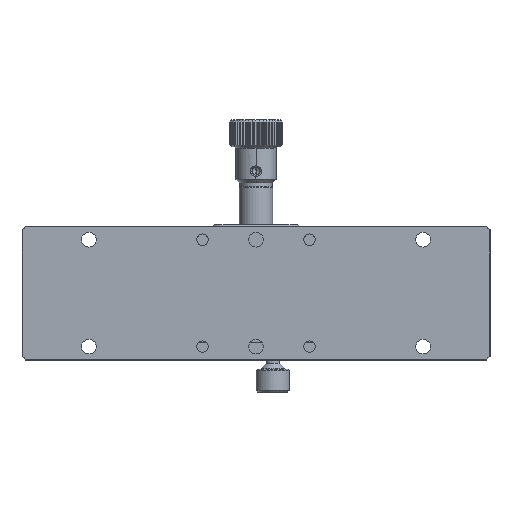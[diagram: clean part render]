
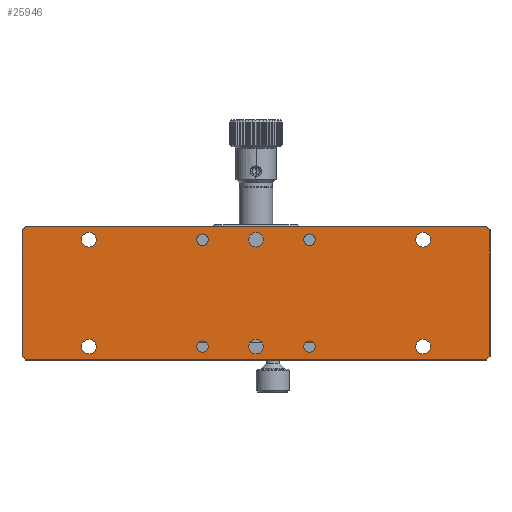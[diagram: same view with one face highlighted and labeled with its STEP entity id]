
A CAD part, front view. The second image highlights one B-rep face of the part: STEP entity #25946.
In plain terms, the highlighted planar face has unit normal (0, -1, 0).
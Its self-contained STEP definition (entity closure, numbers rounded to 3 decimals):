
#622=DIRECTION('',(0.707,0.,-0.707));
#623=VECTOR('',#622,1.249);
#624=CARTESIAN_POINT('',(-19.8,-14.5,-68.917));
#625=LINE('',#624,#623);
#626=DIRECTION('',(0.,0.,-1.));
#627=VECTOR('',#626,137.834);
#628=CARTESIAN_POINT('',(-19.8,-14.5,68.917));
#629=LINE('',#628,#627);
#630=DIRECTION('',(-0.707,0.,-0.707));
#631=VECTOR('',#630,1.249);
#632=CARTESIAN_POINT('',(-18.917,-14.5,69.8));
#633=LINE('',#632,#631);
#634=DIRECTION('',(-1.,0.,0.));
#635=VECTOR('',#634,37.834);
#636=CARTESIAN_POINT('',(18.917,-14.5,69.8));
#637=LINE('',#636,#635);
#638=DIRECTION('',(-0.707,0.,0.707));
#639=VECTOR('',#638,1.249);
#640=CARTESIAN_POINT('',(19.8,-14.5,68.917));
#641=LINE('',#640,#639);
#642=DIRECTION('',(0.,0.,1.));
#643=VECTOR('',#642,137.834);
#644=CARTESIAN_POINT('',(19.8,-14.5,-68.917));
#645=LINE('',#644,#643);
#646=DIRECTION('',(0.707,0.,0.707));
#647=VECTOR('',#646,1.249);
#648=CARTESIAN_POINT('',(18.917,-14.5,-69.8));
#649=LINE('',#648,#647);
#650=DIRECTION('',(1.,0.,0.));
#651=VECTOR('',#650,37.834);
#652=CARTESIAN_POINT('',(-18.917,-14.5,-69.8));
#653=LINE('',#652,#651);
#654=CARTESIAN_POINT('',(-16.,-14.5,-50.));
#655=DIRECTION('',(0.,1.,0.));
#656=DIRECTION('',(1.,0.,0.));
#657=AXIS2_PLACEMENT_3D('',#654,#655,#656);
#659=CARTESIAN_POINT('',(-16.,-14.5,-50.));
#660=DIRECTION('',(0.,1.,0.));
#661=DIRECTION('',(-1.,0.,0.));
#662=AXIS2_PLACEMENT_3D('',#659,#660,#661);
#664=CARTESIAN_POINT('',(16.,-14.5,-50.));
#665=DIRECTION('',(0.,1.,0.));
#666=DIRECTION('',(1.,0.,0.));
#667=AXIS2_PLACEMENT_3D('',#664,#665,#666);
#669=CARTESIAN_POINT('',(16.,-14.5,-50.));
#670=DIRECTION('',(0.,1.,0.));
#671=DIRECTION('',(-1.,0.,0.));
#672=AXIS2_PLACEMENT_3D('',#669,#670,#671);
#674=CARTESIAN_POINT('',(-16.,-14.5,50.));
#675=DIRECTION('',(0.,1.,0.));
#676=DIRECTION('',(1.,0.,0.));
#677=AXIS2_PLACEMENT_3D('',#674,#675,#676);
#679=CARTESIAN_POINT('',(-16.,-14.5,50.));
#680=DIRECTION('',(0.,1.,0.));
#681=DIRECTION('',(-1.,0.,0.));
#682=AXIS2_PLACEMENT_3D('',#679,#680,#681);
#684=CARTESIAN_POINT('',(16.,-14.5,50.));
#685=DIRECTION('',(0.,1.,0.));
#686=DIRECTION('',(1.,0.,0.));
#687=AXIS2_PLACEMENT_3D('',#684,#685,#686);
#689=CARTESIAN_POINT('',(16.,-14.5,50.));
#690=DIRECTION('',(0.,1.,0.));
#691=DIRECTION('',(-1.,0.,0.));
#692=AXIS2_PLACEMENT_3D('',#689,#690,#691);
#694=CARTESIAN_POINT('',(-16.,-14.5,0.));
#695=DIRECTION('',(0.,1.,0.));
#696=DIRECTION('',(1.,0.,0.));
#697=AXIS2_PLACEMENT_3D('',#694,#695,#696);
#699=CARTESIAN_POINT('',(-16.,-14.5,0.));
#700=DIRECTION('',(0.,1.,0.));
#701=DIRECTION('',(-1.,0.,0.));
#702=AXIS2_PLACEMENT_3D('',#699,#700,#701);
#704=CARTESIAN_POINT('',(16.,-14.5,0.));
#705=DIRECTION('',(0.,1.,0.));
#706=DIRECTION('',(1.,0.,0.));
#707=AXIS2_PLACEMENT_3D('',#704,#705,#706);
#709=CARTESIAN_POINT('',(16.,-14.5,0.));
#710=DIRECTION('',(0.,1.,0.));
#711=DIRECTION('',(-1.,0.,0.));
#712=AXIS2_PLACEMENT_3D('',#709,#710,#711);
#714=CARTESIAN_POINT('',(-16.,-14.5,-16.));
#715=DIRECTION('',(0.,1.,0.));
#716=DIRECTION('',(1.,0.,0.));
#717=AXIS2_PLACEMENT_3D('',#714,#715,#716);
#719=CARTESIAN_POINT('',(-16.,-14.5,-16.));
#720=DIRECTION('',(0.,1.,0.));
#721=DIRECTION('',(-1.,0.,0.));
#722=AXIS2_PLACEMENT_3D('',#719,#720,#721);
#724=CARTESIAN_POINT('',(-16.,-14.5,16.));
#725=DIRECTION('',(0.,1.,0.));
#726=DIRECTION('',(1.,0.,0.));
#727=AXIS2_PLACEMENT_3D('',#724,#725,#726);
#729=CARTESIAN_POINT('',(-16.,-14.5,16.));
#730=DIRECTION('',(0.,1.,0.));
#731=DIRECTION('',(-1.,0.,0.));
#732=AXIS2_PLACEMENT_3D('',#729,#730,#731);
#734=CARTESIAN_POINT('',(16.,-14.5,-16.));
#735=DIRECTION('',(0.,1.,0.));
#736=DIRECTION('',(1.,0.,0.));
#737=AXIS2_PLACEMENT_3D('',#734,#735,#736);
#739=CARTESIAN_POINT('',(16.,-14.5,-16.));
#740=DIRECTION('',(0.,1.,0.));
#741=DIRECTION('',(-1.,0.,0.));
#742=AXIS2_PLACEMENT_3D('',#739,#740,#741);
#744=CARTESIAN_POINT('',(16.,-14.5,16.));
#745=DIRECTION('',(0.,1.,0.));
#746=DIRECTION('',(1.,0.,0.));
#747=AXIS2_PLACEMENT_3D('',#744,#745,#746);
#749=CARTESIAN_POINT('',(16.,-14.5,16.));
#750=DIRECTION('',(0.,1.,0.));
#751=DIRECTION('',(-1.,0.,0.));
#752=AXIS2_PLACEMENT_3D('',#749,#750,#751);
#18767=CARTESIAN_POINT('',(-19.8,-14.5,-68.917));
#18768=CARTESIAN_POINT('',(-18.917,-14.5,-69.8));
#18769=VERTEX_POINT('',#18767);
#18770=VERTEX_POINT('',#18768);
#18777=CARTESIAN_POINT('',(18.917,-14.5,-69.8));
#18778=VERTEX_POINT('',#18777);
#18779=CARTESIAN_POINT('',(19.8,-14.5,-68.917));
#18780=VERTEX_POINT('',#18779);
#18785=CARTESIAN_POINT('',(19.8,-14.5,68.917));
#18786=VERTEX_POINT('',#18785);
#18787=CARTESIAN_POINT('',(18.917,-14.5,69.8));
#18788=VERTEX_POINT('',#18787);
#18793=CARTESIAN_POINT('',(-18.917,-14.5,69.8));
#18794=VERTEX_POINT('',#18793);
#18797=CARTESIAN_POINT('',(-19.8,-14.5,68.917));
#18798=VERTEX_POINT('',#18797);
#20187=CARTESIAN_POINT('',(-13.8,-14.5,-50.));
#20188=CARTESIAN_POINT('',(-18.2,-14.5,-50.));
#20189=VERTEX_POINT('',#20187);
#20190=VERTEX_POINT('',#20188);
#20191=CARTESIAN_POINT('',(18.2,-14.5,-50.));
#20192=CARTESIAN_POINT('',(13.8,-14.5,-50.));
#20193=VERTEX_POINT('',#20191);
#20194=VERTEX_POINT('',#20192);
#20195=CARTESIAN_POINT('',(-13.8,-14.5,50.));
#20196=CARTESIAN_POINT('',(-18.2,-14.5,50.));
#20197=VERTEX_POINT('',#20195);
#20198=VERTEX_POINT('',#20196);
#20199=CARTESIAN_POINT('',(18.2,-14.5,50.));
#20200=CARTESIAN_POINT('',(13.8,-14.5,50.));
#20201=VERTEX_POINT('',#20199);
#20202=VERTEX_POINT('',#20200);
#24879=CARTESIAN_POINT('',(-14.3,-14.5,-16.));
#24880=CARTESIAN_POINT('',(-17.7,-14.5,-16.));
#24881=VERTEX_POINT('',#24879);
#24882=VERTEX_POINT('',#24880);
#24883=CARTESIAN_POINT('',(-14.3,-14.5,16.));
#24884=CARTESIAN_POINT('',(-17.7,-14.5,16.));
#24885=VERTEX_POINT('',#24883);
#24886=VERTEX_POINT('',#24884);
#24887=CARTESIAN_POINT('',(17.7,-14.5,-16.));
#24888=CARTESIAN_POINT('',(14.3,-14.5,-16.));
#24889=VERTEX_POINT('',#24887);
#24890=VERTEX_POINT('',#24888);
#24891=CARTESIAN_POINT('',(17.7,-14.5,16.));
#24892=CARTESIAN_POINT('',(14.3,-14.5,16.));
#24893=VERTEX_POINT('',#24891);
#24894=VERTEX_POINT('',#24892);
#24943=CARTESIAN_POINT('',(-13.8,-14.5,0.));
#24944=CARTESIAN_POINT('',(-18.2,-14.5,0.));
#24945=VERTEX_POINT('',#24943);
#24946=VERTEX_POINT('',#24944);
#24947=CARTESIAN_POINT('',(18.2,-14.5,0.));
#24948=CARTESIAN_POINT('',(13.8,-14.5,0.));
#24949=VERTEX_POINT('',#24947);
#24950=VERTEX_POINT('',#24948);
#25864=CARTESIAN_POINT('',(0.,-14.5,0.));
#25865=DIRECTION('',(0.,1.,0.));
#25866=DIRECTION('',(1.,0.,0.));
#25867=AXIS2_PLACEMENT_3D('',#25864,#25865,#25866);
#25868=PLANE('',#25867);
#25870=ORIENTED_EDGE('',*,*,#25869,.F.);
#25872=ORIENTED_EDGE('',*,*,#25871,.F.);
#25874=ORIENTED_EDGE('',*,*,#25873,.F.);
#25876=ORIENTED_EDGE('',*,*,#25875,.F.);
#25878=ORIENTED_EDGE('',*,*,#25877,.F.);
#25880=ORIENTED_EDGE('',*,*,#25879,.F.);
#25881=ORIENTED_EDGE('',*,*,#25854,.F.);
#25883=ORIENTED_EDGE('',*,*,#25882,.F.);
#25884=EDGE_LOOP('',(#25870,#25872,#25874,#25876,#25878,#25880,#25881,#25883));
#25885=FACE_OUTER_BOUND('',#25884,.F.);
#25887=ORIENTED_EDGE('',*,*,#25886,.F.);
#25889=ORIENTED_EDGE('',*,*,#25888,.F.);
#25890=EDGE_LOOP('',(#25887,#25889));
#25891=FACE_BOUND('',#25890,.F.);
#25893=ORIENTED_EDGE('',*,*,#25892,.F.);
#25895=ORIENTED_EDGE('',*,*,#25894,.F.);
#25896=EDGE_LOOP('',(#25893,#25895));
#25897=FACE_BOUND('',#25896,.F.);
#25899=ORIENTED_EDGE('',*,*,#25898,.F.);
#25901=ORIENTED_EDGE('',*,*,#25900,.F.);
#25902=EDGE_LOOP('',(#25899,#25901));
#25903=FACE_BOUND('',#25902,.F.);
#25905=ORIENTED_EDGE('',*,*,#25904,.F.);
#25907=ORIENTED_EDGE('',*,*,#25906,.F.);
#25908=EDGE_LOOP('',(#25905,#25907));
#25909=FACE_BOUND('',#25908,.F.);
#25911=ORIENTED_EDGE('',*,*,#25910,.F.);
#25913=ORIENTED_EDGE('',*,*,#25912,.F.);
#25914=EDGE_LOOP('',(#25911,#25913));
#25915=FACE_BOUND('',#25914,.F.);
#25917=ORIENTED_EDGE('',*,*,#25916,.F.);
#25919=ORIENTED_EDGE('',*,*,#25918,.F.);
#25920=EDGE_LOOP('',(#25917,#25919));
#25921=FACE_BOUND('',#25920,.F.);
#25923=ORIENTED_EDGE('',*,*,#25922,.F.);
#25925=ORIENTED_EDGE('',*,*,#25924,.F.);
#25926=EDGE_LOOP('',(#25923,#25925));
#25927=FACE_BOUND('',#25926,.F.);
#25929=ORIENTED_EDGE('',*,*,#25928,.F.);
#25931=ORIENTED_EDGE('',*,*,#25930,.F.);
#25932=EDGE_LOOP('',(#25929,#25931));
#25933=FACE_BOUND('',#25932,.F.);
#25935=ORIENTED_EDGE('',*,*,#25934,.F.);
#25937=ORIENTED_EDGE('',*,*,#25936,.F.);
#25938=EDGE_LOOP('',(#25935,#25937));
#25939=FACE_BOUND('',#25938,.F.);
#25941=ORIENTED_EDGE('',*,*,#25940,.F.);
#25943=ORIENTED_EDGE('',*,*,#25942,.F.);
#25944=EDGE_LOOP('',(#25941,#25943));
#25945=FACE_BOUND('',#25944,.F.);
#25946=ADVANCED_FACE('',(#25885,#25891,#25897,#25903,#25909,#25915,#25921,
#25927,#25933,#25939,#25945),#25868,.F.);
#658=CIRCLE('',#657,2.2);
#663=CIRCLE('',#662,2.2);
#668=CIRCLE('',#667,2.2);
#673=CIRCLE('',#672,2.2);
#678=CIRCLE('',#677,2.2);
#683=CIRCLE('',#682,2.2);
#688=CIRCLE('',#687,2.2);
#693=CIRCLE('',#692,2.2);
#698=CIRCLE('',#697,2.2);
#703=CIRCLE('',#702,2.2);
#708=CIRCLE('',#707,2.2);
#713=CIRCLE('',#712,2.2);
#718=CIRCLE('',#717,1.7);
#723=CIRCLE('',#722,1.7);
#728=CIRCLE('',#727,1.7);
#733=CIRCLE('',#732,1.7);
#738=CIRCLE('',#737,1.7);
#743=CIRCLE('',#742,1.7);
#748=CIRCLE('',#747,1.7);
#753=CIRCLE('',#752,1.7);
#25854=EDGE_CURVE('',#18778,#18780,#649,.T.);
#25869=EDGE_CURVE('',#18769,#18770,#625,.T.);
#25871=EDGE_CURVE('',#18798,#18769,#629,.T.);
#25873=EDGE_CURVE('',#18794,#18798,#633,.T.);
#25875=EDGE_CURVE('',#18788,#18794,#637,.T.);
#25877=EDGE_CURVE('',#18786,#18788,#641,.T.);
#25879=EDGE_CURVE('',#18780,#18786,#645,.T.);
#25882=EDGE_CURVE('',#18770,#18778,#653,.T.);
#25886=EDGE_CURVE('',#20189,#20190,#658,.T.);
#25888=EDGE_CURVE('',#20190,#20189,#663,.T.);
#25892=EDGE_CURVE('',#20193,#20194,#668,.T.);
#25894=EDGE_CURVE('',#20194,#20193,#673,.T.);
#25898=EDGE_CURVE('',#20197,#20198,#678,.T.);
#25900=EDGE_CURVE('',#20198,#20197,#683,.T.);
#25904=EDGE_CURVE('',#20201,#20202,#688,.T.);
#25906=EDGE_CURVE('',#20202,#20201,#693,.T.);
#25910=EDGE_CURVE('',#24945,#24946,#698,.T.);
#25912=EDGE_CURVE('',#24946,#24945,#703,.T.);
#25916=EDGE_CURVE('',#24949,#24950,#708,.T.);
#25918=EDGE_CURVE('',#24950,#24949,#713,.T.);
#25922=EDGE_CURVE('',#24881,#24882,#718,.T.);
#25924=EDGE_CURVE('',#24882,#24881,#723,.T.);
#25928=EDGE_CURVE('',#24885,#24886,#728,.T.);
#25930=EDGE_CURVE('',#24886,#24885,#733,.T.);
#25934=EDGE_CURVE('',#24889,#24890,#738,.T.);
#25936=EDGE_CURVE('',#24890,#24889,#743,.T.);
#25940=EDGE_CURVE('',#24893,#24894,#748,.T.);
#25942=EDGE_CURVE('',#24894,#24893,#753,.T.);
